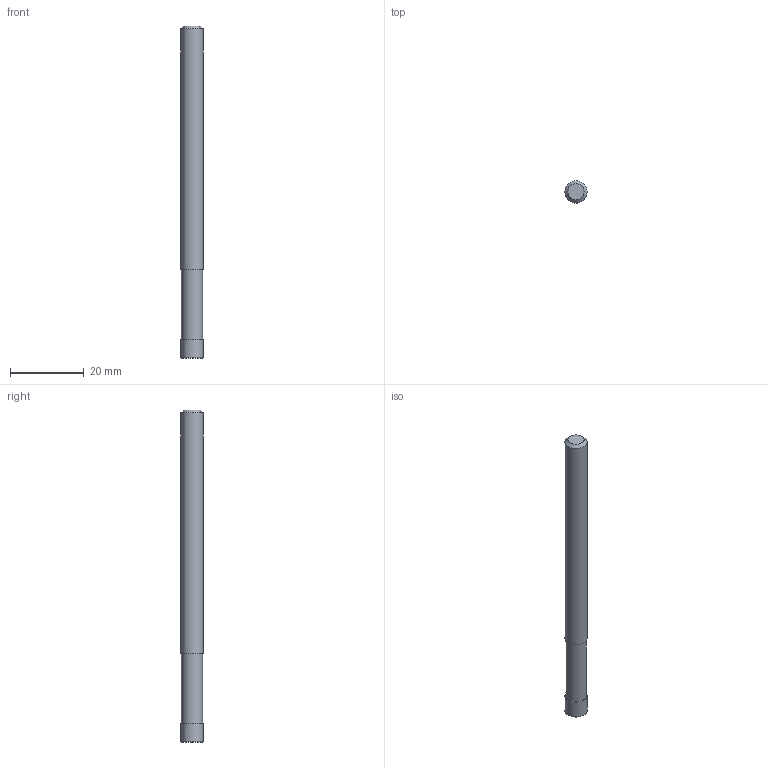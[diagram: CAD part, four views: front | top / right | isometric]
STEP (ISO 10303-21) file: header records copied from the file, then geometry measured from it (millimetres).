
FILE_DESCRIPTION((''),'2;1');
FILE_NAME('C:\Users\nsx150\AppData\Local\Temp\Mastercam 2021\CSMVKW3037\TEMP.step','2023-06-23T16:05:11',(''),(''),'STEP Write','Mastercam 2021 ... CNC Software, Inc.','');
FILE_SCHEMA(('AUTOMOTIVE_DESIGN'));
Length unit declared in the file: millimetre
Products named in the file (1): None
Bounding box: 6 x 6 x 90 mm (x, y, z)
Volume: 2486.8 mm3; surface area: 1781.6 mm2
Topology: 2 solids, 2 shells, 10 faces, 13 edges, 8 vertices
Faces by surface type: plane 5, cylinder 3, torus 1, cone 1
Full cylindrical faces by diameter (mm): 5.7 x1, 6 x2
Entity records: 232 total; most frequent: DIRECTION 40, CARTESIAN_POINT 28, AXIS2_PLACEMENT_3D 20, ORIENTED_EDGE 16, EDGE_LOOP 16, STYLED_ITEM 13, ADVANCED_FACE 10, FACE_BOUND 10
